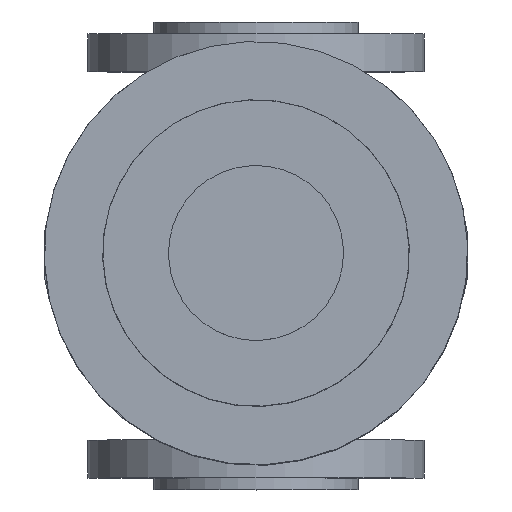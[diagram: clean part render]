
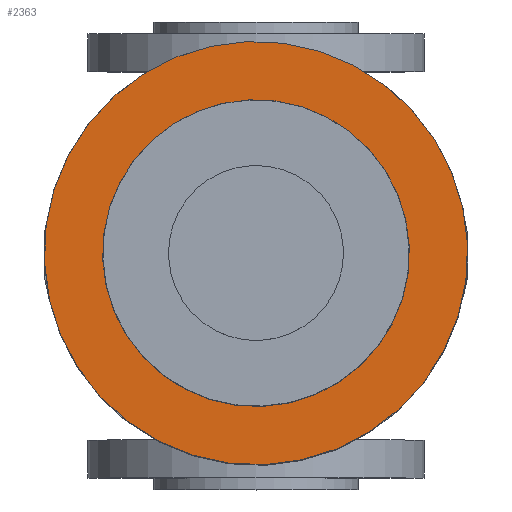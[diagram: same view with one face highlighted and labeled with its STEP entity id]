
A CAD part, top view. The second image highlights one B-rep face of the part: STEP entity #2363.
In plain terms, the highlighted planar face has unit normal (0, 0, 1).
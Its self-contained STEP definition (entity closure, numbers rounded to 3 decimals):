
#19 = DIRECTION ( 'NONE',  ( 0., 0., 1. ) ) ;
#589 = EDGE_CURVE ( 'NONE', #2678, #8938, #6950, .T. ) ;
#767 = AXIS2_PLACEMENT_3D ( 'NONE', #5567, #6516, #7880 ) ;
#1004 = EDGE_CURVE ( 'NONE', #7028, #3364, #8813, .T. ) ;
#1661 = PLANE ( 'NONE',  #6742 ) ;
#1746 = CIRCLE ( 'NONE', #6883, 52.5 ) ;
#2251 = CIRCLE ( 'NONE', #7559, 72.434 ) ;
#2363 = ADVANCED_FACE ( 'NONE', ( #8650, #7899 ), #1661, .F. ) ;
#2404 = ORIENTED_EDGE ( 'NONE', *, *, #6111, .F. ) ;
#2678 = VERTEX_POINT ( 'NONE', #8535 ) ;
#2772 = AXIS2_PLACEMENT_3D ( 'NONE', #4490, #2989, #9038 ) ;
#2989 = DIRECTION ( 'NONE',  ( 0., 0., 1. ) ) ;
#3012 = DIRECTION ( 'NONE',  ( -0.924, -0.383, 0. ) ) ;
#3117 = EDGE_CURVE ( 'NONE', #8938, #2678, #2251, .T. ) ;
#3174 = DIRECTION ( 'NONE',  ( 0., 0., -1. ) ) ;
#3364 = VERTEX_POINT ( 'NONE', #5999 ) ;
#3845 = CARTESIAN_POINT ( 'NONE',  ( 139.421, -147.281, 44. ) ) ;
#4027 = CARTESIAN_POINT ( 'NONE',  ( 5.579, -202.719, 44. ) ) ;
#4420 = EDGE_LOOP ( 'NONE', ( #2404, #5532 ) ) ;
#4490 = CARTESIAN_POINT ( 'NONE',  ( 72.5, -175., 44. ) ) ;
#4591 = ORIENTED_EDGE ( 'NONE', *, *, #3117, .T. ) ;
#5008 = DIRECTION ( 'NONE',  ( 0., 0., 1. ) ) ;
#5532 = ORIENTED_EDGE ( 'NONE', *, *, #1004, .F. ) ;
#5567 = CARTESIAN_POINT ( 'NONE',  ( 72.5, -175., 44. ) ) ;
#5999 = CARTESIAN_POINT ( 'NONE',  ( 121.004, -154.909, 44. ) ) ;
#6111 = EDGE_CURVE ( 'NONE', #3364, #7028, #1746, .T. ) ;
#6234 = DIRECTION ( 'NONE',  ( 0., -1., 0. ) ) ;
#6278 = EDGE_LOOP ( 'NONE', ( #7954, #4591 ) ) ;
#6516 = DIRECTION ( 'NONE',  ( 0., 0., 1. ) ) ;
#6742 = AXIS2_PLACEMENT_3D ( 'NONE', #4027, #3174, #6234 ) ;
#6883 = AXIS2_PLACEMENT_3D ( 'NONE', #8447, #19, #3012 ) ;
#6950 = CIRCLE ( 'NONE', #2772, 72.434 ) ;
#7028 = VERTEX_POINT ( 'NONE', #9732 ) ;
#7559 = AXIS2_PLACEMENT_3D ( 'NONE', #9042, #5008, #8078 ) ;
#7880 = DIRECTION ( 'NONE',  ( -0.924, -0.383, 0. ) ) ;
#7899 = FACE_BOUND ( 'NONE', #4420, .T. ) ;
#7954 = ORIENTED_EDGE ( 'NONE', *, *, #589, .T. ) ;
#8078 = DIRECTION ( 'NONE',  ( -0.924, -0.383, 0. ) ) ;
#8447 = CARTESIAN_POINT ( 'NONE',  ( 72.5, -175., 44. ) ) ;
#8535 = CARTESIAN_POINT ( 'NONE',  ( 5.579, -202.719, 44. ) ) ;
#8650 = FACE_OUTER_BOUND ( 'NONE', #6278, .T. ) ;
#8813 = CIRCLE ( 'NONE', #767, 52.5 ) ;
#8938 = VERTEX_POINT ( 'NONE', #3845 ) ;
#9038 = DIRECTION ( 'NONE',  ( -0.924, -0.383, 0. ) ) ;
#9042 = CARTESIAN_POINT ( 'NONE',  ( 72.5, -175., 44. ) ) ;
#9732 = CARTESIAN_POINT ( 'NONE',  ( 23.996, -195.091, 44. ) ) ;
